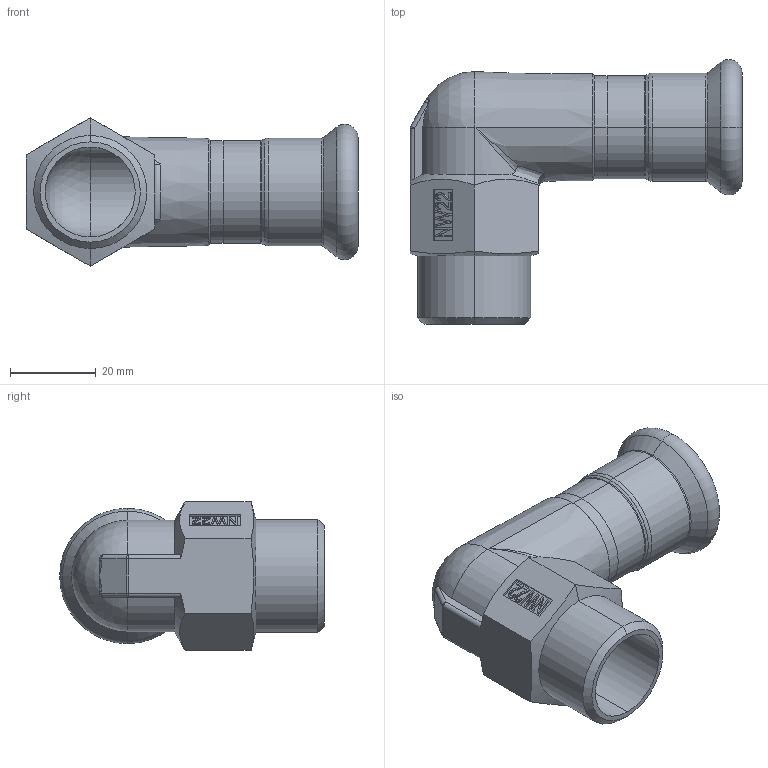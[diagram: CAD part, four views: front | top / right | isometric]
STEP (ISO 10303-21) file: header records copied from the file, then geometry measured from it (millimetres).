
FILE_DESCRIPTION (( 'STEP AP203' ), '1' );
FILE_NAME ('GDA5273.STEP', '2019-01-15T05:32:51', ( '' ), ( '' ), 'SwSTEP 2.0', 'SolidWorks 2015', '' );
FILE_SCHEMA (( 'CONFIG_CONTROL_DESIGN' ));
Length unit declared in the file: millimetre
Products named in the file (3): T-ｉ-01-22; GDA5273; OD22｡ﾁ0.75
Assembly tree (2 placements, depth 2):
  GDA5273
    OD22｡ﾁ0.75
    T-ｉ-01-22
Bounding box: 77.5 x 61.8 x 34.64 mm (x, y, z)
Volume: 22034.3 mm3; surface area: 17625 mm2
Topology: 2 solids, 2 shells, 146 faces, 352 edges, 211 vertices
Faces by surface type: plane 56, cylinder 30, cone 19, bspline 18, torus 17, sphere 6
Entity records: 5811 total; most frequent: CARTESIAN_POINT 2260, ORIENTED_EDGE 692, DIRECTION 649, EDGE_CURVE 346, AXIS2_PLACEMENT_3D 235, VERTEX_POINT 210, VECTOR 179, LINE 179
